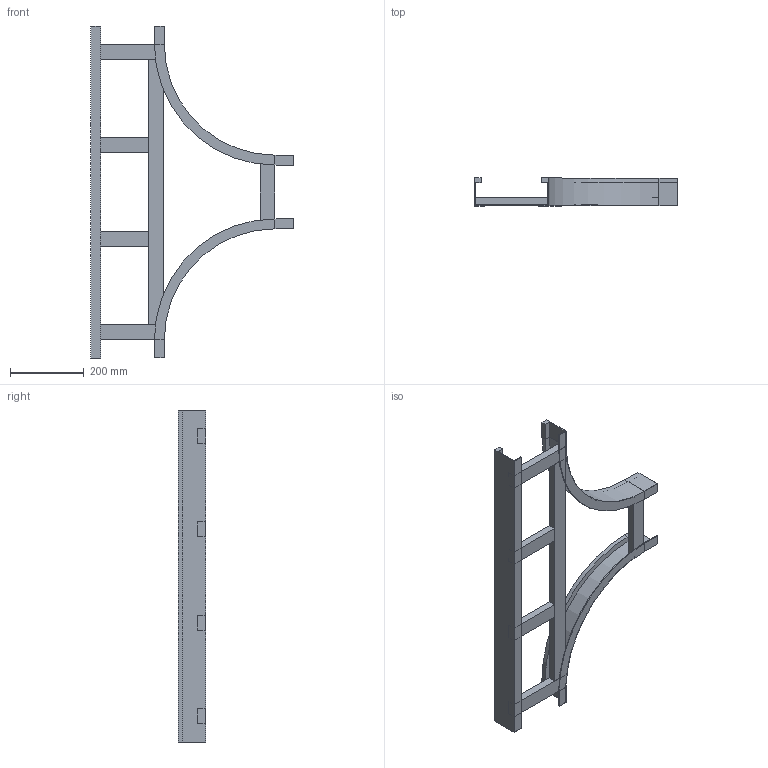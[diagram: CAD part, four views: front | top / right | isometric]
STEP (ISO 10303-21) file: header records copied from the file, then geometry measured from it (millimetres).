
FILE_DESCRIPTION (( 'STEP AP214' ), '1' );
FILE_NAME ('B2_15B3C200.step', '2025-02-21T15:53:38', ( '' ), ( '' ), 'SwSTEP 2.0', 'SolidWorks 2023', '' );
FILE_SCHEMA (( 'AUTOMOTIVE_DESIGN' ));
Length unit declared in the file: millimetre
Products named in the file (6): TRAVERSINO_INTERMEDIO_R300+200; B2_15B3C200; B2_TRAVERSINO_LONG._R300+200; TRAVERSINO_200; B2_LONGH.RETT_H75_R300+200; B2_LONGH.INTERNO 90°_H75_R300
Assembly tree (9 placements, depth 2):
  B2_15B3C200
    B2_LONGH.INTERNO 90°_H75_R300  x2
    B2_LONGH.RETT_H75_R300+200
    TRAVERSINO_200  x3
    B2_TRAVERSINO_LONG._R300+200
    TRAVERSINO_INTERMEDIO_R300+200  x2
Bounding box: 550 x 75 x 900 mm (x, y, z)
Volume: 2120012 mm3; surface area: 694401.8 mm2
Topology: 9 solids, 9 shells, 98 faces, 208 edges, 128 vertices
Faces by surface type: plane 90, cylinder 8
Entity records: 1639 total; most frequent: DIRECTION 256, CARTESIAN_POINT 254, ORIENTED_EDGE 232, EDGE_CURVE 116, VECTOR 108, LINE 108, AXIS2_PLACEMENT_3D 74, VERTEX_POINT 72
